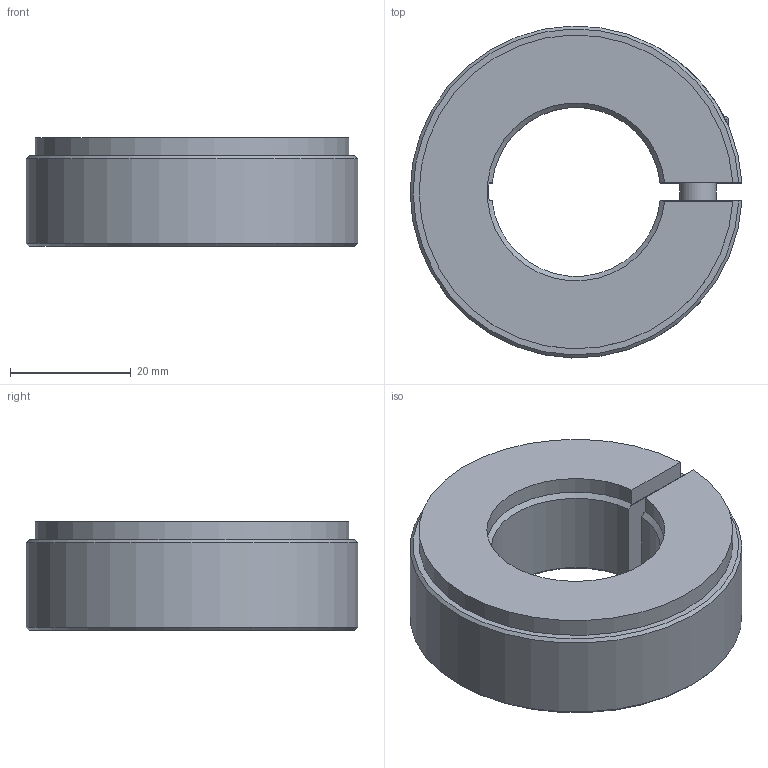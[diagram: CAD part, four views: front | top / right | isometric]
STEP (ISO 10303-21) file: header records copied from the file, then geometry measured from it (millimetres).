
FILE_DESCRIPTION( ( 'STEP AP203' ), '1' );
FILE_NAME( 'C:/Temp/Ganter_Step_05_03_2020/data/3_2/gn7062_3/Semi-split Stainless Steel-Set collar GN 7062.3-55-B28-NI.stp', '2020-03-13T05:40:26', ( 'License CC BY-ND 4.0' ), ( 'CADENAS' ), ' ', 'PARTsolutions', ' ' );
FILE_SCHEMA( ( 'CONFIG_CONTROL_DESIGN' ) );
Length unit declared in the file: millimetre
Products named in the file (1): _Semi-split Stainless Steel-Set collar GN 7062.3-55-B28-NI
Bounding box: 54.96 x 54.98 x 18 mm (x, y, z)
Volume: 29081.7 mm3; surface area: 9280.4 mm2
Topology: 1 solids, 1 shells, 36 faces, 89 edges, 59 vertices
Faces by surface type: plane 20, cylinder 10, cone 5, torus 1
Full cylindrical faces by diameter (mm): 6 x1, 6.4 x1, 10 x1, 10.5 x1
Entity records: 1190 total; most frequent: CARTESIAN_POINT 305, DIRECTION 170, ORIENTED_EDGE 168, EDGE_CURVE 84, AXIS2_PLACEMENT_3D 64, VERTEX_POINT 59, EDGE_LOOP 47, LINE 42
